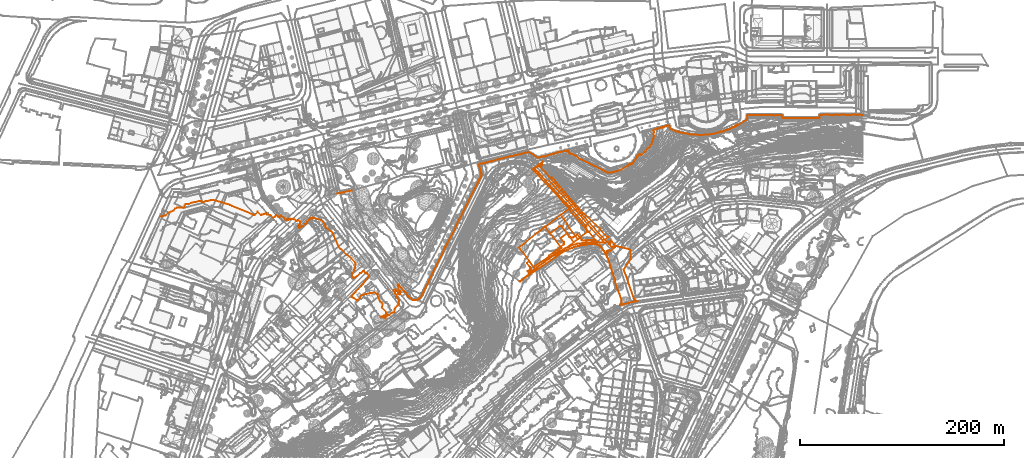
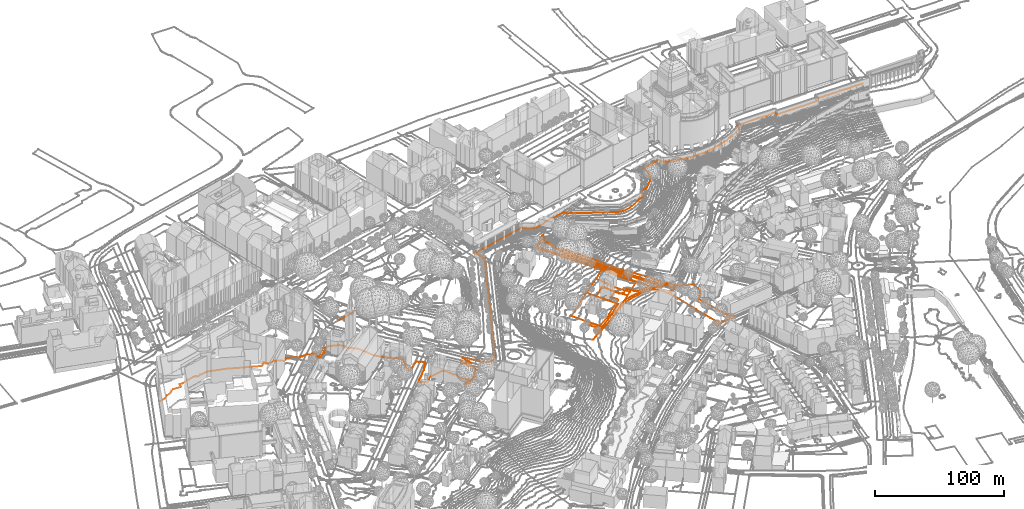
# Not in any storey, part 162 of 477: 6 geographic elements, 5 civil elements.
"""IFC4 model written with IfcOpenShell, lengths in metres."""

from ifc_helpers import new_model, entity, si_unit, frame, origin_with_axes, place, context, subcontext, project, spatial, element, save


model = new_model("IFC4")

# Units and contexts
model_context = context("Model", 3, precision=1e-05, world=origin_with_axes())
body_context = subcontext(model_context, "Body", "Model", "MODEL_VIEW")
ifc_project = project(units=[si_unit("AREAUNIT", "SQUARE_METRE"), si_unit("LENGTHUNIT", "METRE")], contexts=[model_context])

# Sites
site_1_placement = place(None, origin_with_axes())
site_1 = spatial("IfcSite", under=ifc_project, at=site_1_placement, Name="Topoexport Site")
site_2_placement = place(site_1_placement, origin_with_axes())
site_2 = spatial("IfcSite", under=site_1, at=site_2_placement, Name="TPX_ROADS")

# Civil elements
civil_element_1_placement = place(site_2_placement, frame((172.923732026, 284.0407345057, 538.122), z_axis=(0.0, 0.0, 1.0), x_axis=(1.0, 0.0, 0.0)))
element("IfcCivilElement", 1, at=civil_element_1_placement, inside=site_2, Name="Road 59", ObjectType="ROAD", context=body_context, shape_type="GeometricCurveSet", body=[
    entity("IfcGeometricCurveSet", [entity("IfcIndexedPolyCurve", entity("IfcCartesianPointList3D", [[14.3940000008, 2.9439999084, 0.706], [2.3530000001, 0.4479999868, 0.103], [0.0, 0.0, 0.0]]))]),
])
civil_element_2_placement = place(site_2_placement, frame((360.1557320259, 206.2587368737, 509.034), z_axis=(0.0, 0.0, 1.0), x_axis=(1.0, 0.0, 0.0)))
element("IfcCivilElement", 2, at=civil_element_2_placement, inside=site_2, Name="Road 109", ObjectType="ROAD", context=body_context, shape_type="GeometricCurveSet", body=[
    entity("IfcGeometricCurveSet", [entity("IfcIndexedPolyCurve", entity("IfcCartesianPointList3D", [[74.8299999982, 29.3059991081, -0.928], [65.7859999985, 30.1029990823, 0.054], [56.5350000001, 29.5159990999, 0.376], [47.8709999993, 28.3409991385, 0.292], [42.436999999, 26.8719991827, 0.186], [36.2699999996, 24.0819992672, -0.008], [28.3409999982, 19.382999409, -0.345], [15.4180000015, 10.5729996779, -0.715], [0.0, 0.0, 0.0]]))]),
])
civil_element_3_placement = place(site_2_placement, frame((379.9787320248, 296.8617341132, 521.603), z_axis=(0.0, 0.0, 1.0), x_axis=(1.0, 0.0, 0.0)))
element("IfcCivilElement", 3, at=civil_element_3_placement, inside=site_2, Name="Road 113", ObjectType="ROAD", context=body_context, shape_type="GeometricCurveSet", body=[
    entity("IfcGeometricCurveSet", [entity("IfcIndexedPolyCurve", entity("IfcCartesianPointList3D", [[0.0, 0.0, 0.0], [12.0390000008, -12.8129996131, -3.029], [26.870000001, -29.846999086, -6.998], [41.5549999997, -46.7349985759, -10.387], [52.569000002, -58.7759982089, -13.034], [55.0069999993, -61.2969981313, -13.497]]))]),
])

# Site
site_3_placement = place(site_1_placement, origin_with_axes())
site_3 = spatial("IfcSite", under=site_1, at=site_3_placement, Name="TPX_ROADS_OUTLINES")

# Civil elements
civil_element_4_placement = place(site_3_placement, frame((358.4047320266, 215.7757160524, 509.5615762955), z_axis=(0.0, 0.0, 1.0), x_axis=(1.0, 0.0, 0.0)))
element("IfcCivilElement", 4, at=civil_element_4_placement, inside=site_3, Name="Roads Outline 92", ObjectType="ROAD", context=body_context, shape_type="GeometricCurveSet", body=[
    entity("IfcGeometricCurveSet", [entity("IfcIndexedPolyCurve", entity("IfcCartesianPointList3D", [[0.0, 0.0, 0.0], [2.2740000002, 1.9580000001, -0.0185667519], [6.3590000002, -3.4139999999, -0.6451984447], [6.5079999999, -3.5549999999, -0.6632285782], [6.6950000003, -3.639, -0.6791300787], [6.9050000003, -3.6539999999, -0.6943008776], [7.108, -3.5959999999, -0.7094803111], [21.733, 6.4310000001, -1.1034374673], [21.8459999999, 6.5630000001, -1.0998671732], [21.9199999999, 6.7210000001, -1.0936127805], [21.9500000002, 6.892, -1.0868270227], [21.9350000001, 7.057, -1.0844337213], [21.878, 7.213, -1.0814561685], [21.7830000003, 7.3489999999, -1.0773894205], [35.9080000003, 18.138, -0.1860687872], [36.1499999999, 18.4200000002, -0.171074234], [36.338, 18.74, -0.1630339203], [36.4650000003, 19.0900000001, -0.1564717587], [36.5260000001, 19.456, -0.1446515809], [36.5219999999, 19.807, -0.1287492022], [36.4580000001, 20.1510000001, -0.1289073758], [36.335, 20.48, -0.1285582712], [36.1580000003, 20.7820000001, -0.1190141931], [33.2560000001, 24.6060000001, 0.3979491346], [39.3289999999, 29.209, 0.3563267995], [41.5830000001, 26.094, 0.0641893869], [41.8310000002, 25.7590000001, 0.0105747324], [42.1260000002, 25.4650000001, -0.0189242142], [42.4620000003, 25.219, -0.0461104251], [42.8319999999, 25.0260000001, -0.06040878], [43.227, 24.892, -0.0120599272], [43.6370000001, 24.8190000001, 0.0451653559], [44.0470000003, 24.8190000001, 0.0592849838], [44.4530000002, 24.875, 0.0555458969], [44.8480000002, 24.986, 0.0484107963], [45.2239999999, 25.1500000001, 0.0409217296], [45.574, 25.3630000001, 0.0399787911], [49.622, 28.257, 0.2088732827], [53.452, 23.014, 0.1201461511], [53.6770000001, 22.7239999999, 0.1118681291], [53.9399999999, 22.4680000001, 0.0903844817], [54.236, 22.25, 0.0669845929], [54.5589999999, 22.0760000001, 0.0491423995], [54.9190000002, 21.942, 0.0372657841], [55.2949999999, 21.862, 0.0354620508], [55.679, 21.8360000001, 0.0375898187], [56.0619999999, 21.8660000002, 0.042926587], [56.4369999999, 21.9510000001, 0.0525623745], [58.3060000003, 22.226, 0.0406992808], [60.182, 22.442, 0.016173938], [61.96, 22.5919999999, -0.0465602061], [63.7409999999, 22.6880000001, -0.1639530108], [67.3540000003, 22.719, -0.3013532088], [69.7970000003, 17.8600000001, -1.1662020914], [68.8340000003, 18.1850000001, -1.043833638], [67.8500000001, 18.4399999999, -0.927965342], [66.8500000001, 18.6230000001, -0.8144944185], [65.8390000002, 18.7320000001, -0.74524202], [63.8420000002, 18.6810000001, -0.5340343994], [61.8480000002, 18.564, -0.2671595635], [59.8590000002, 18.3810000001, -0.1381956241], [57.8770000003, 18.1310000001, -0.1605188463], [55.9050000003, 17.8160000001, -0.1384627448], [53.9440000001, 17.4350000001, -0.1852241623], [51.983, 17.048, -0.1919769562], [50.0350000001, 16.5960000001, -0.1888052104], [48.1040000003, 16.0790000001, -0.1996127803], [46.1910000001, 15.4980000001, -0.2061680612], [44.298, 14.8540000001, -0.1918278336], [42.4280000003, 14.148, -0.1999372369], [40.585, 13.382, -0.3208148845], [38.7719999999, 12.547, -0.4844312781], [36.9930000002, 11.642, -0.6324447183], [35.25, 10.6700000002, -0.7287400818], [33.5449999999, 9.632, -0.8375892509], [31.8810000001, 8.5290000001, -1.0569937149], [3.2940000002, -11.058, -0.5554348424], [0.9339999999, -7.828, -0.5058880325], [3.0160000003, -6.415, -0.5693892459], [3.2320000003, -6.135, -0.5620181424], [3.395, -5.8229999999, -0.5479566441], [3.5020000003, -5.486, -0.5405694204], [3.548, -5.1359999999, -0.5336911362], [3.5360000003, -4.8119999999, -0.5128779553], [3.4720000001, -4.4949999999, -0.4797345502], [3.358, -4.192, -0.4317391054], [3.196, -3.9109999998, -0.383223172], [0.0, 0.0, 0.0]]))]),
])
civil_element_5_placement = place(site_3_placement, frame((365.1097320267, 308.3697160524, 525.0698412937), z_axis=(0.0, 0.0, 1.0), x_axis=(1.0, 0.0, 0.0)))
element("IfcCivilElement", 5, at=civil_element_5_placement, inside=site_3, Name="Roads Outline 134", ObjectType="ROAD", context=body_context, shape_type="GeometricCurveSet", body=[
    entity("IfcGeometricCurveSet", [entity("IfcIndexedPolyCurve", entity("IfcCartesianPointList3D", [[0.0, 0.0, 0.0], [4.8130000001, 3.801, 3.11499559], [5.2030000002, 4.1089999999, 4.4712828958], [8.6159999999, 6.804, 5.3630217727], [8.1370000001, 3.2439999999, 4.4606920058], [7.9399999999, 3.0589999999, 4.2899163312], [6.5929999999, 1.791, 2.8588248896], [11.5189999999, -3.7989999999, -1.0865591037], [12.6579999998, -5.0830000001, -1.5028159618], [16.4479999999, -9.3300000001, -3.3364237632], [21.6000000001, -15.169, -4.757597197], [44.1499999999, -41.243, -10.6516504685], [47.6579999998, -45.2290000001, -11.6133893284], [48.122, -45.746, -11.7414826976], [67.398, -67.2479999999, -16.2403065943], [73.7340000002, -73.6170000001, -17.5239661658], [74.6669999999, -74.335, -17.6945875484], [75.1239999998, -73.358, -17.7389379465], [75.216, -73.1259999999, -17.7552212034], [75.2370000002, -72.8770000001, -17.764595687], [75.2060000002, -72.7, -17.7658176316], [75.139, -72.5330000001, -17.7267578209], [75.037, -72.3840000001, -17.6830990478], [74.4440000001, -71.6669999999, -17.4013848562], [75.7060000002, -70.5549999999, -17.3183949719], [75.9369999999, -70.352, -17.3212251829], [78.895, -73.9709999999, -18.1347059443], [80.9909999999, -76.067, -18.5859251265], [74.2910000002, -81.088, -18.1941292], [73.9249999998, -80.378, -18.1035200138], [73.8259999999, -80.2620000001, -18.0908916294], [73.6910000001, -80.1910000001, -18.0767031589], [73.5389999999, -80.176, -18.063827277], [73.3930000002, -80.2180000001, -18.0555357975], [71.8539999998, -81.085, -18.0660139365], [71.733, -81.186, -18.060762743], [71.6609999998, -81.3259999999, -18.0639737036], [71.6490000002, -81.483, -18.0744842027], [71.6979999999, -81.632, -18.0894826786], [72.2420000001, -82.6229999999, -18.2773729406], [70.6680000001, -83.8030000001, -18.2020288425], [69.8769999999, -82.4110000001, -18.0065826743], [69.0419999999, -81.0449999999, -17.813268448], [68.1630000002, -79.706, -17.5740850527], [67.2409999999, -78.3970000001, -17.3881788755], [66.2770000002, -77.1189999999, -17.2028290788], [65.713, -76.5519999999, -17.0824580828], [65.1090000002, -76.027, -16.9597301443], [64.469, -75.547, -16.8573981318], [63.7949999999, -75.1159999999, -16.7575382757], [63.0920000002, -74.7339999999, -16.6744670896], [60.6490000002, -69.875, -15.809618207], [57.642, -66.1429999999, -14.9298294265], [54.5800000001, -62.4550000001, -14.2717438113], [51.466, -58.8119999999, -13.5736960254], [50.2450000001, -57.3600000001, -13.3499801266], [50.3939999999, -57.2309999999, -13.3103671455], [51.5830000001, -56.203, -13.222053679], [36.8050000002, -39.098, -9.631066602], [35.8360000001, -37.9809999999, -9.3719325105], [34.8569999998, -36.872, -9.1007664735], [33.3730000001, -35.2239999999, -8.715534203], [31.8680000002, -33.595, -8.3183732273], [12.21, -12.2209999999, -3.2033987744], [8.0, -7.672, -2.1067515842], [6.5129999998, -6.0530000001, -1.7150702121], [5.6720000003, -5.179, -1.4962816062], [4.9049999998, -4.3559999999, -1.2803574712], [4.148, -3.5560000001, -1.0472082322], [2.7459999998, -2.236, -0.6419117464], [1.9210000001, -1.49, -0.4309908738], [1.003, -0.7520000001, -0.2694282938], [0.1170000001, -0.084, -0.0284917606], [0.0, 0.0, 0.0]]))]),
])

# Site
site_4_placement = place(site_1_placement, origin_with_axes())
site_4 = spatial("IfcSite", under=site_1, at=site_4_placement, Name="TPX_CADASTRES")

# Geographic elements
geographic_element_1_placement = place(site_4_placement, frame((376.2777320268, 251.3117160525, 512.9561865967), z_axis=(0.0, 0.0, 1.0), x_axis=(1.0, 0.0, 0.0)))
element("IfcGeographicElement", 6, at=geographic_element_1_placement, inside=site_4, Name="Cadastre 27", PredefinedType="NOTDEFINED", context=body_context, shape_type="GeometricCurveSet", body=[
    entity("IfcGeometricCurveSet", [entity("IfcIndexedPolyCurve", entity("IfcCartesianPointList3D", [[0.0, 0.0, 0.0], [15.3679999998, 11.6510000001, 0.6392623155], [18.3859999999, 7.665, -0.4449217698], [21.6370000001, 3.371, -1.5611649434], [20.9180000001, 2.831, -1.6201231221], [23.7080000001, -0.8560000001, -2.5580498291], [32.1570000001, -12.0190000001, -3.3448609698], [28.1570000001, -15.03, -3.4857608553], [19.7080000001, -3.8489999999, -2.5430238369], [19.608, -3.929, -2.5398819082], [16.1680000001, 0.611, -0.8510220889], [16.068, 0.541, -0.8450980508], [13.838, 0.3810000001, -0.3647602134], [5.0099999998, -6.3900000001, -1.5452226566], [0.0, 0.0, 0.0]]))]),
])
geographic_element_2_placement = place(site_4_placement, frame((391.6457320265, 262.9627160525, 513.5954489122), z_axis=(0.0, 0.0, 1.0), x_axis=(1.0, 0.0, 0.0)))
element("IfcGeographicElement", 7, at=geographic_element_2_placement, inside=site_4, Name="Cadastre 28", PredefinedType="NOTDEFINED", context=body_context, shape_type="GeometricCurveSet", body=[
    entity("IfcGeometricCurveSet", [entity("IfcIndexedPolyCurve", entity("IfcCartesianPointList3D", [[0.0, 0.0, 0.0], [7.7290000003, 5.8499999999, 2.1044565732], [22.628, -11.5600000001, -2.0704940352], [26.7570000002, -16.6500000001, -2.6766862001], [25.9080000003, -16.77, -2.6888815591], [16.7890000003, -23.6700000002, -3.9841232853], [8.3400000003, -12.5070000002, -3.1973121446], [5.5500000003, -8.8200000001, -2.2593854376], [6.2690000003, -8.28, -2.2004272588], [3.0180000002, -3.986, -1.0841840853], [0.0, 0.0, 0.0]]))]),
])
geographic_element_3_placement = place(site_4_placement, frame((351.4387320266, 197.8587160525, 509.4229224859), z_axis=(0.0, 0.0, 1.0), x_axis=(1.0, 0.0, 0.0)))
element("IfcGeographicElement", 8, at=geographic_element_3_placement, inside=site_4, Name="Cadastre 40", PredefinedType="NOTDEFINED", context=body_context, shape_type="GeometricCurveSet", body=[
    entity("IfcGeometricCurveSet", [entity("IfcIndexedPolyCurve", entity("IfcCartesianPointList3D", [[0.0, 0.0, 0.0], [15.29, 12.138, -0.6105200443], [34.2790000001, 27.213, -0.7532862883], [35.6090000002, 25.273, -1.1444025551], [52.9960000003, 38.423, 0.0475032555], [56.9960000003, 41.4339999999, 0.188403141], [66.1150000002, 48.334, 1.4836448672], [66.9640000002, 48.4539999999, 1.4958402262], [62.835, 53.544, 2.1020323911], [47.9360000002, 70.9539999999, 6.2769829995], [48.3480000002, 71.2659999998, 6.3291722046], [44.7720000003, 75.3370000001, 7.1704415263], [44.702, 75.2759999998, 7.1470661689], [42.6610000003, 77.571, 7.8904246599], [27.9199999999, 93.6139999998, 11.7126237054], [18.094, 104.1809999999, 14.3221853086], [15.5700000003, 106.7789999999, 14.9646494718], [14.111, 108.0289999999, 15.3302247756], [12.1510000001, 109.5819999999, 15.8458887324], [19.267, 113.223, 18.4183511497], [19.8390000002, 112.5049999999, 18.6445048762], [19.9890000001, 112.6169999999, 19.2287641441], [30.128, 101.1629999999, 12.3060207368], [31.398, 102.3729999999, 12.9561957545], [43.7650000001, 88.004, 10.0984605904], [62.6839999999, 66.504, 4.5265779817], [78.1129999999, 51.7039999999, 0.9745444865], [86.3570000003, 43.105, -1.2688063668], [83.8450000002, 41.047, -1.1102821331], [90.1529999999, 33.3299999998, -2.4678587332], [94.662, 34.4439999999, -2.9390063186], [107.0900000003, 31.4839999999, -4.2677089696], [108.5100000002, 30.3739999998, -4.581023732], [108.6710000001, 21.6739999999, -4.7391375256], [104.7009999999, 15.9839999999, -4.5888987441], [101.9420000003, 11.6839999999, -4.7166003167], [112.1320000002, -17.307, -6.4533299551], [112.2960000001, -17.6810000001, -6.4709248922], [112.5100000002, -18.0290000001, -6.4739960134], [112.7690000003, -18.344, -6.4808447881], [113.068, -18.622, -6.5078719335], [113.4020000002, -18.8570000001, -6.5339067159], [113.764, -19.0450000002, -6.5584412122], [114.1490000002, -19.1810000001, -6.5787373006], [114.548, -19.2650000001, -6.5990770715], [114.9550000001, -19.294, -6.6134059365], [115.3620000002, -19.267, -6.619490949], [98.2150000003, -23.237, -6.4250106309], [98.6490000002, -22.9170000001, -6.3886284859], [99.037, -22.5420000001, -6.3680380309], [99.3700000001, -22.118, -6.3606726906], [99.6440000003, -21.6530000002, -6.3568756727], [99.852, -21.156, -6.3346239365], [99.9920000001, -20.635, -6.2559648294], [100.0600000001, -20.1000000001, -6.1801710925], [100.0560000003, -19.561, -6.1372622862], [99.9790000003, -19.027, -6.1041379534], [99.8310000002, -18.5080000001, -6.1083268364], [93.0989999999, 0.6709999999, -4.9682652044], [93.2409999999, 0.892, -4.9491233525], [93.321, 1.142, -4.9296001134], [93.3330000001, 1.4039999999, -4.9035023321], [93.2760000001, 1.6599999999, -4.8610950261], [91.358, 7.0719999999, -4.4351993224], [88.9010000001, 15.5689999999, -3.7747851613], [87.5989999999, 19.375, -3.4380062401], [87.0440000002, 20.8829999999, -3.2960935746], [86.4390000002, 22.371, -3.1121918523], [85.787, 23.8399999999, -2.9467175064], [85.0860000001, 25.2859999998, -2.7489896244], [84.3390000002, 26.7079999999, -2.5551100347], [83.548, 28.0999999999, -2.3596638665], [82.713, 29.466, -2.1663496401], [81.8340000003, 30.8049999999, -1.9271662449], [80.912, 32.1139999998, -1.7412600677], [79.9480000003, 33.392, -1.5559102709], [79.3840000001, 33.959, -1.4355392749], [78.7800000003, 34.4839999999, -1.3128113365], [78.1400000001, 34.9639999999, -1.210479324], [77.466, 35.395, -1.1106194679], [76.7630000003, 35.777, -1.0275482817], [75.8000000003, 36.102, -0.9051798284], [74.8160000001, 36.3569999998, -0.7893115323], [73.8160000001, 36.54, -0.6758406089], [72.8050000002, 36.649, -0.6065882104], [70.8080000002, 36.598, -0.3953805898], [68.8140000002, 36.4809999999, -0.1285057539], [66.8250000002, 36.298, 0.0004581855], [64.8430000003, 36.048, -0.0218650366], [62.8710000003, 35.733, 0.0001910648], [60.9100000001, 35.352, -0.0465703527], [58.949, 34.9649999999, -0.0533231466], [57.0010000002, 34.513, -0.0501514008], [55.0700000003, 33.997, -0.0609120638], [53.1570000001, 33.416, -0.0674237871], [51.264, 32.7719999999, -0.0531037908], [49.3940000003, 32.0649999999, -0.0612834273], [47.5500000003, 31.3, -0.1820864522], [45.7379999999, 30.4649999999, -0.3456776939], [43.9580000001, 29.5600000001, -0.4936455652], [42.2150000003, 28.588, -0.5898519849], [40.5100000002, 27.5489999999, -0.698973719], [38.8470000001, 26.446, -0.9183399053], [0.1260000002, -0.0830000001, -0.0259599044], [0.0, 0.0, 0.0]]))]),
])
geographic_element_4_placement = place(site_4_placement, frame((381.2877320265, 244.9217160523, 511.4109639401), z_axis=(0.0, 0.0, 1.0), x_axis=(1.0, 0.0, 0.0)))
element("IfcGeographicElement", 9, at=geographic_element_4_placement, inside=site_4, Name="Cadastre 222", PredefinedType="NOTDEFINED", context=body_context, shape_type="GeometricCurveSet", body=[
    entity("IfcGeometricCurveSet", [entity("IfcIndexedPolyCurve", entity("IfcCartesianPointList3D", [[0.0, 0.0, 0.0], [8.8280000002, 6.7710000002, 1.1804624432], [11.0580000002, 6.9310000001, 0.7001246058], [11.1580000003, 7.0010000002, 0.6942005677], [14.5980000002, 2.4610000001, -0.9946592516], [14.6980000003, 2.5410000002, -0.9978011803], [23.1470000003, -8.6399999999, -1.9405381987], [5.7600000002, -21.7899999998, -3.1324440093], [4.4300000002, -19.8499999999, -2.7413277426], [11.3090000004, -14.3999999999, -2.3065642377], [0.0, 0.0, 0.0]]))]),
])
geographic_element_5_placement = place(site_4_placement, frame((350.9537320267, 231.0577160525, 511.7616514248), z_axis=(0.0, 0.0, 1.0), x_axis=(1.0, 0.0, 0.0)))
element("IfcGeographicElement", 10, at=geographic_element_5_placement, inside=site_4, Name="Cadastre 233", PredefinedType="NOTDEFINED", context=body_context, shape_type="GeometricCurveSet", body=[
    entity("IfcGeometricCurveSet", [entity("IfcIndexedPolyCurve", entity("IfcCartesianPointList3D", [[0.0, 0.0, 0.0], [20.3700000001, 16.7519999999, 0.2470899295], [25.324, 20.254, 1.1945351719], [30.3339999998, 13.8639999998, -0.3506874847], [41.6430000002, -0.5360000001, -2.6572517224], [34.764, -5.986, -3.0920152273], [15.7749999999, -21.061, -2.9492489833], [0.0, 0.0, 0.0]]))]),
])

# Site
site_5_placement = place(site_1_placement, origin_with_axes())
site_5 = spatial("IfcSite", under=site_1, at=site_5_placement, Name="TPX_CONTOUR_LINES")

# Geographic element
geographic_element_6_placement = place(site_5_placement, frame((-0.8222679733, 261.1322813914, 536.0), z_axis=(0.0, 0.0, 1.0), x_axis=(1.0, 0.0, 0.0)))
element("IfcGeographicElement", 11, at=geographic_element_6_placement, inside=site_5, Name="Contour Line 536.0 m", PredefinedType="NOTDEFINED", context=body_context, shape_type="GeometricCurveSet", body=[
    entity("IfcGeometricCurveSet", [entity("IfcIndexedPolyCurve", entity("IfcCartesianPointList3D", [[689.0, 99.764523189, 0.0], [684.5, 99.9783068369, 0.0], [682.5, 99.7413317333, 0.0], [679.5, 100.0603964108, 0.0], [676.5, 99.737455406, 0.0], [668.5, 99.9968519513, 0.0], [664.5, 99.8339916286, 0.0], [662.5, 100.1117321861, 0.0], [661.5, 99.849916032, 0.0], [657.5, 99.7444224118, 0.0], [655.5, 99.9930352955, 0.0], [647.5, 99.8906895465, 0.0], [646.253681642, 99.038434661, 0.0], [646.0186542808, 97.038434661, 0.0], [645.5, 96.8027042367, 0.0], [621.5, 96.9112161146, 0.0], [610.5, 96.6498498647, 0.0], [609.8444827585, 97.038434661, 0.0], [609.3367899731, 99.038434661, 0.0], [608.5, 99.6696871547, 0.0], [601.5, 99.3870125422, 0.0], [594.5, 99.6570730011, 0.0], [575.5, 99.5213748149, 0.0], [575.0104114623, 98.038434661, 0.0], [575.2902956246, 96.038434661, 0.0], [574.6170184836, 95.038434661, 0.0], [566.5, 89.983347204, 0.0], [565.5, 89.6351213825, 0.0], [564.5, 88.8610501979, 0.0], [563.5, 88.7281260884, 0.0], [562.5, 87.841150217, 0.0], [561.5, 87.7144352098, 0.0], [558.1732109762, 86.038434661, 0.0], [556.5, 85.6793841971, 0.0], [555.5, 85.0208515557, 0.0], [553.5, 84.6945991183, 0.0], [552.3693402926, 84.038434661, 0.0], [549.5, 83.4278316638, 0.0], [548.5, 82.855706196, 0.0], [546.5, 82.6936659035, 0.0], [543.5, 81.6043702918, 0.0], [537.5, 80.624041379, 0.0], [529.5, 80.1509392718, 0.0], [519.5, 80.7671641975, 0.0], [508.5, 82.9168289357, 0.0], [507.5, 83.5456440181, 0.0], [505.5, 83.7002097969, 0.0], [499.9318207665, 86.038434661, 0.0], [499.4549602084, 87.038434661, 0.0], [499.0742403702, 89.038434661, 0.0], [498.5, 89.588498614, 0.0], [496.5, 89.4190414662, 0.0], [495.5, 88.8737139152, 0.0], [493.5, 88.4505846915, 0.0], [492.5, 87.7361646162, 0.0], [489.5, 87.0895693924, 0.0], [488.5, 87.1315153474, 0.0], [487.5, 86.4086561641, 0.0], [484.5, 85.2228033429, 0.0], [483.2405279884, 85.038434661, 0.0], [483.703956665, 83.038434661, 0.0], [483.6072563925, 81.038434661, 0.0], [483.8732450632, 79.038434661, 0.0], [483.1817319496, 76.038434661, 0.0], [481.8546834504, 73.038434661, 0.0], [481.5, 71.1340372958, 0.0], [480.5, 70.3045058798, 0.0], [479.0157806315, 68.038434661, 0.0], [477.5, 66.870504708, 0.0], [475.2700923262, 64.038434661, 0.0], [471.5, 60.5395224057, 0.0], [470.5, 60.8003655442, 0.0], [469.5, 61.4720589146, 0.0], [469.3555028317, 61.038434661, 0.0], [467.5, 59.3758789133, 0.0], [466.2677821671, 57.038434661, 0.0], [464.4943053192, 55.038434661, 0.0], [463.5, 52.9349374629, 0.0], [462.5, 52.0842726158, 0.0], [461.5, 51.3933736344, 0.0], [459.5, 50.9919368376, 0.0], [458.5, 50.0079355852, 0.0], [449.5, 45.4733137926, 0.0], [447.5, 44.6736189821, 0.0], [441.5, 43.1643584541, 0.0], [438.5, 43.4056642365, 0.0], [436.5, 44.0886469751, 0.0], [410.5, 57.1938400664, 0.0], [407.5, 59.3426499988, 0.0], [403.5, 61.3588410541, 0.0], [401.5, 61.8347433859, 0.0], [401.1405093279, 62.038434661, 0.0], [400.7655003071, 63.038434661, 0.0], [400.3095543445, 65.038434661, 0.0], [399.2394758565, 65.038434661, 0.0], [398.5, 64.5043014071, 0.0], [393.6778253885, 64.038434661, 0.0], [392.5, 63.4519464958, 0.0], [390.5, 63.4069570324, 0.0], [389.5, 62.8061158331, 0.0], [380.5, 60.5770265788, 0.0], [378.5, 59.3716842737, 0.0], [375.5, 58.8176031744, 0.0], [373.5, 58.7933125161, 0.0], [370.5, 58.0669702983, 0.0], [369.5, 58.1457392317, 0.0], [366.5, 60.1922038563, 0.0], [360.5, 63.4485684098, 0.0], [355.4123903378, 62.038434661, 0.0], [347.5, 60.3641243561, 0.0], [345.5, 59.6127561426, 0.0], [343.5, 59.3595608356, 0.0], [331.5, 56.3935211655, 0.0], [324.5, 54.3777363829, 0.0], [319.5, 53.3235376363, 0.0], [316.5, 52.195980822, 0.0], [314.5, 52.1640638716, 0.0], [312.2682357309, 51.038434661, 0.0], [314.7246685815, 42.038434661, 0.0], [314.7706074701, 41.038434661, 0.0], [313.0468605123, 37.038434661, 0.0], [312.2551120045, 36.038434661, 0.0], [311.0243857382, 33.038434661, 0.0], [308.2477838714, 28.038434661, 0.0], [302.2166778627, 16.038434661, 0.0], [300.9668015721, 13.038434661, 0.0], [299.2063816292, 10.038434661, 0.0], [293.0236798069, -2.961565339, 0.0], [290.1710052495, -7.961565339, 0.0], [289.4182742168, -9.961565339, 0.0], [280.9854043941, -26.961565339, 0.0], [279.1983904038, -29.961565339, 0.0], [276.0909788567, -36.961565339, 0.0], [270.9211644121, -46.961565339, 0.0], [270.9186951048, -47.961565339, 0.0], [268.7184608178, -50.961565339, 0.0], [266.8152883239, -55.961565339, 0.0], [264.3199138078, -59.961565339, 0.0], [261.92904467, -65.961565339, 0.0], [260.4543766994, -67.961565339, 0.0], [259.9735085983, -69.961565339, 0.0], [259.1834784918, -70.961565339, 0.0], [257.9982092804, -73.961565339, 0.0], [257.1754328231, -74.961565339, 0.0], [256.9413067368, -75.961565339, 0.0], [255.7908942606, -77.961565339, 0.0], [254.2512721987, -79.961565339, 0.0], [252.5, -81.2001410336, 0.0], [249.5, -81.7249890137, 0.0], [247.5, -81.5170317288, 0.0], [246.5, -81.0469957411, 0.0], [243.4496626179, -78.961565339, 0.0], [242.6673569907, -77.961565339, 0.0], [241.2363758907, -74.961565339, 0.0], [238.6559953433, -72.961565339, 0.0], [236.5, -69.7641068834, 0.0], [233.9673387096, -66.961565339, 0.0], [233.5, -66.6984552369, 0.0], [232.6382899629, -66.961565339, 0.0], [233.2719449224, -68.961565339, 0.0], [233.3946540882, -70.961565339, 0.0], [234.8882352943, -72.961565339, 0.0], [235.2055176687, -73.961565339, 0.0], [235.0397489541, -75.961565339, 0.0], [234.5, -76.239732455, 0.0], [233.976673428, -75.961565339, 0.0], [233.0388888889, -74.961565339, 0.0], [232.7943820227, -73.961565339, 0.0], [231.5, -72.9595987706, 0.0], [230.5, -71.6340844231, 0.0], [229.5, -71.4944120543, 0.0], [228.5, -71.8735422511, 0.0], [228.3940476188, -72.961565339, 0.0], [229.8145400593, -73.961565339, 0.0], [230.5760118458, -75.961565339, 0.0], [231.6953367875, -76.961565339, 0.0], [231.1620603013, -78.961565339, 0.0], [232.5, -79.5127663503, 0.0], [233.546275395, -80.961565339, 0.0], [233.851973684, -81.961565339, 0.0], [233.6657608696, -83.961565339, 0.0], [233.8816912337, -84.961565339, 0.0], [232.5, -87.0803153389, 0.0], [230.3831018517, -88.961565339, 0.0], [229.7589473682, -90.961565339, 0.0], [229.5, -93.3939698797, 0.0], [228.5, -94.0548914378, 0.0], [227.5, -94.0313766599, 0.0], [225.5, -94.8657367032, 0.0], [224.5, -96.2359243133, 0.0], [223.5, -96.2252868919, 0.0], [222.8663594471, -96.961565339, 0.0], [221.5, -97.4487448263, 0.0], [220.9613686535, -97.961565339, 0.0], [220.5, -99.8744039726, 0.0], [219.5, -99.0656975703, 0.0], [216.2398843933, -97.961565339, 0.0], [219.5013071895, -96.961565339, 0.0], [221.3928104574, -94.961565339, 0.0], [221.7799999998, -93.961565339, 0.0], [217.5088757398, -88.961565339, 0.0], [217.6091131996, -84.961565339, 0.0], [216.9674175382, -83.961565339, 0.0], [215.3681790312, -82.961565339, 0.0], [214.0656742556, -79.961565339, 0.0], [212.804054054, -75.961565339, 0.0], [212.5, -75.7539311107, 0.0], [211.5, -75.550514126, 0.0], [209.5, -74.2851311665, 0.0], [198.5, -76.334683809, 0.0], [197.5, -76.8948407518, 0.0], [196.4532795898, -77.961565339, 0.0], [195.1395093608, -79.961565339, 0.0], [192.5, -81.9687661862, 0.0], [189.5, -79.7047013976, 0.0], [187.7722029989, -78.961565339, 0.0], [187.5, -78.5887375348, 0.0], [187.4085885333, -77.961565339, 0.0], [189.5, -75.2580477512, 0.0], [191.1574541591, -73.961565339, 0.0], [196.5, -67.9027209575, 0.0], [198.7973240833, -65.961565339, 0.0], [201.5, -61.7398378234, 0.0], [202.5, -60.867548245, 0.0], [204.5, -57.8093914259, 0.0], [202.5, -55.3633599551, 0.0], [201.5, -55.469084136, 0.0], [200.7074363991, -54.961565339, 0.0], [199.5, -53.1602408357, 0.0], [198.5, -53.3317100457, 0.0], [196.5, -55.1342863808, 0.0], [195.5, -55.4415880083, 0.0], [191.5, -59.1967231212, 0.0], [189.5, -60.0876411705, 0.0], [188.5, -59.2388686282, 0.0], [187.7146501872, -57.961565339, 0.0], [188.0110514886, -55.961565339, 0.0], [187.8583848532, -54.961565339, 0.0], [189.9378378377, -52.961565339, 0.0], [190.4101671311, -51.961565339, 0.0], [191.3382603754, -45.961565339, 0.0], [190.9914173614, -44.961565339, 0.0], [187.5, -40.9192557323, 0.0], [182.0368296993, -36.961565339, 0.0], [176.5, -31.4718443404, 0.0], [174.5, -28.7945402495, 0.0], [168.9961933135, -15.961565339, 0.0], [166.9657624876, -13.961565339, 0.0], [162.6364958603, -10.961565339, 0.0], [161.7874323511, -9.961565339, 0.0], [161.6686804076, -7.961565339, 0.0], [161.115509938, -6.961565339, 0.0], [159.5155781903, -4.961565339, 0.0], [157.5, -3.4153641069, 0.0], [150.5, -1.1265597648, 0.0], [149.5, -0.9771794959, 0.0], [148.5, -1.7221482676, 0.0], [147.5, -1.477158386, 0.0], [146.5, -1.7343197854, 0.0], [145.7706316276, -2.961565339, 0.0], [143.7264922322, -4.961565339, 0.0], [143.5790796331, -5.961565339, 0.0], [142.4211420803, -6.961565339, 0.0], [141.5, -7.1149803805, 0.0], [139.6867434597, -8.961565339, 0.0], [137.5, -10.083440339, 0.0], [136.5, -11.0718334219, 0.0], [135.8919288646, -9.961565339, 0.0], [134.9101813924, -8.961565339, 0.0], [135.5, -7.9848211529, 0.0], [136.5, -8.0019693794, 0.0], [137.012537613, -5.961565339, 0.0], [136.9135254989, -4.961565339, 0.0], [135.5, -3.3396810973, 0.0], [134.5, -3.351251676, 0.0], [133.5, -4.3718217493, 0.0], [131.4323144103, -2.961565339, 0.0], [130.5, -1.9754221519, 0.0], [129.5, -2.2569414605, 0.0], [126.5, -2.2816587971, 0.0], [125.5, -3.0664040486, 0.0], [124.5, -2.0290800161, 0.0], [123.5, -3.0949472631, 0.0], [122.5, -2.7190644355, 0.0], [121.5, -1.2694333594, 0.0], [118.5, 1.0399246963, 0.0], [116.5, -0.0840949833, 0.0], [115.5, -0.0649117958, 0.0], [113.5, 1.4261472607, 0.0], [112.5, 0.1800943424, 0.0], [110.5, -1.0202290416, 0.0], [107.5, 1.7115447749, 0.0], [104.5, 2.2334811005, 0.0], [103.5, 3.4446576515, 0.0], [101.5, 2.592127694, 0.0], [98.5, 1.8005076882, 0.0], [95.5, 5.0165513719, 0.0], [92.5, 1.8000992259, 0.0], [91.5, 1.7160817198, 0.0], [90.5, 2.3624948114, 0.0], [70.5, 10.4474572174, 0.0], [68.5, 11.6507307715, 0.0], [51.5, 16.4362218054, 0.0], [49.5, 16.3254622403, 0.0], [45.5, 15.2126029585, 0.0], [44.5, 15.3863048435, 0.0], [42.5, 14.3753405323, 0.0], [41.5, 14.6127589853, 0.0], [40.5, 15.390477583, 0.0], [38.5, 15.5677250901, 0.0], [33.5, 14.1975951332, 0.0], [31.5, 14.1046485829, 0.0], [27.5, 12.4223457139, 0.0], [26.5, 12.2043073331, 0.0], [24.5, 12.4237220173, 0.0], [23.8967318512, 11.038434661, 0.0], [23.5, 8.758045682, 0.0], [16.5, 8.9766164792, 0.0], [14.5, 7.7847540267, 0.0], [12.7696078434, 6.038434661, 0.0], [8.5, 4.2607890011, 0.0], [4.5, 1.1943015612, 0.0], [2.5, 0.8601081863, 0.0], [0.0, 0.0, 0.0]]))]),
])

save(model, "model.ifc")
